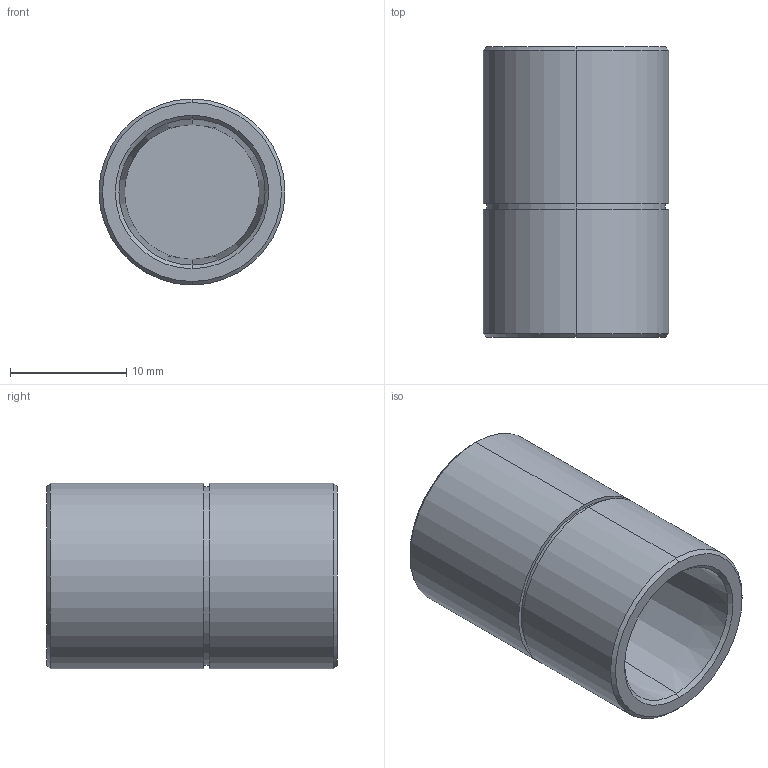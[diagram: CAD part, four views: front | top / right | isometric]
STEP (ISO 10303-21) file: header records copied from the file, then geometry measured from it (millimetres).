
FILE_DESCRIPTION (( 'STEP AP203' ), '1' );
FILE_NAME ('SW-PN-F4-T.STEP', '2022-03-28T06:59:26', ( '' ), ( '' ), 'SwSTEP 2.0', 'SolidWorks 2015', '' );
FILE_SCHEMA (( 'CONFIG_CONTROL_DESIGN' ));
Length unit declared in the file: millimetre
Products named in the file (2): SW-PN-F4-T
Bounding box: 16 x 25 x 16 mm (x, y, z)
Volume: 3590.8 mm3; surface area: 2217.9 mm2
Topology: 1 solids, 1 shells, 23 faces, 46 edges, 27 vertices
Faces by surface type: cone 10, cylinder 8, plane 5
Entity records: 743 total; most frequent: DIRECTION 120, CARTESIAN_POINT 96, ORIENTED_EDGE 88, AXIS2_PLACEMENT_3D 51, EDGE_CURVE 44, VERTEX_POINT 27, EDGE_LOOP 27, CIRCLE 26
